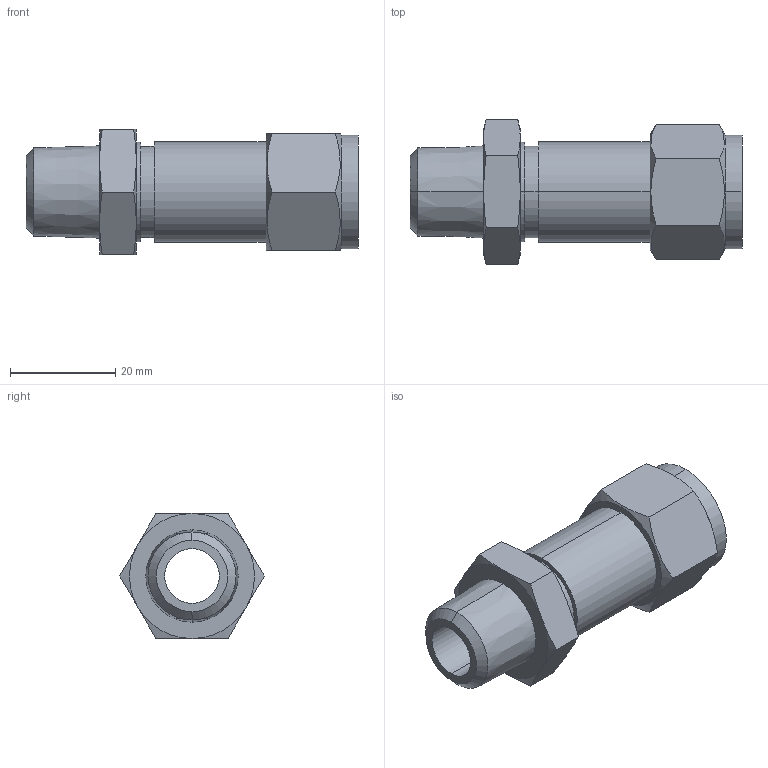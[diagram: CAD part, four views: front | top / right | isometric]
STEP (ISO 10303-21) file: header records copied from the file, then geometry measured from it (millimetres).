
FILE_DESCRIPTION (( 'STEP AP203' ), '1' );
FILE_NAME ('DSC08-06 SS.STEP', '2009-09-08T09:01:09', ( ' ' ), ( '' ), 'SwSTEP 2.0', 'SolidWorks 2008', '' );
FILE_SCHEMA (( 'CONFIG_CONTROL_DESIGN' ));
Length unit declared in the file: millimetre
Products named in the file (1): DSC08-06 SS
Bounding box: 63.2 x 27.49 x 23.81 mm (x, y, z)
Volume: 14437.8 mm3; surface area: 7385.5 mm2
Topology: 1 solids, 1 shells, 52 faces, 116 edges, 72 vertices
Faces by surface type: cone 20, plane 20, cylinder 12
Entity records: 1693 total; most frequent: CARTESIAN_POINT 497, ORIENTED_EDGE 232, DIRECTION 226, EDGE_CURVE 116, AXIS2_PLACEMENT_3D 97, VERTEX_POINT 72, EDGE_LOOP 60, FACE_OUTER_BOUND 52
